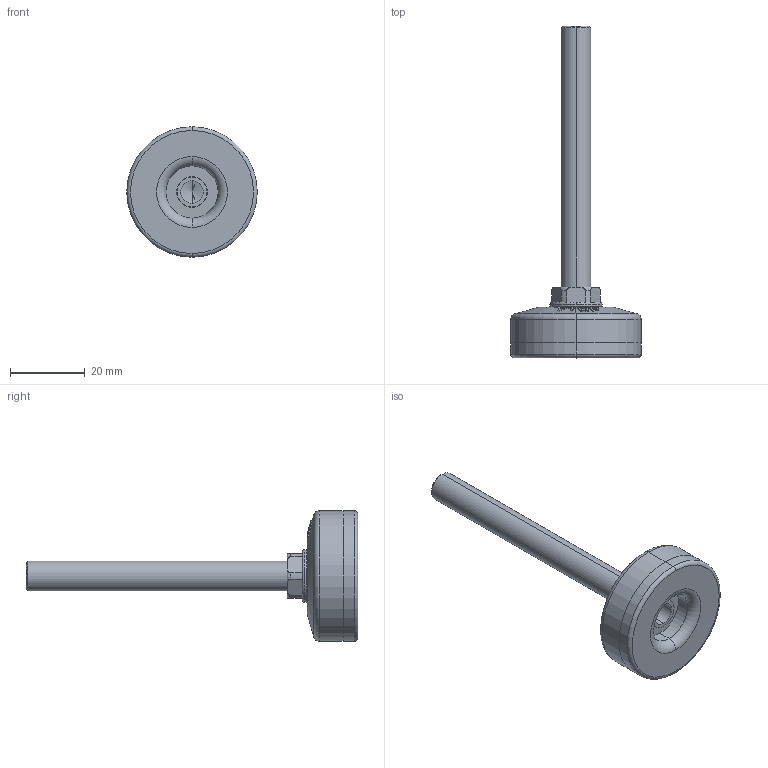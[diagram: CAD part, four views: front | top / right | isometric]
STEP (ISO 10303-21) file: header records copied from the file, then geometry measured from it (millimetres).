
FILE_DESCRIPTION (( 'STEP AP203' ), '1' );
FILE_NAME ('R-35-870-TPU.STEP', '2020-09-11T02:21:06', ( '' ), ( '' ), 'SwSTEP 2.0', 'SolidWorks 2016', '' );
FILE_SCHEMA (( 'CONFIG_CONTROL_DESIGN' ));
Length unit declared in the file: millimetre
Products named in the file (4): 穩諉蹟裝M8炵蹈_M8X70; R-35-870-TPU; S倰覃誹褐_35菁菜; S倰覃誹褐_35裔赽
Assembly tree (3 placements, depth 2):
  R-35-870-TPU
    S倰覃誹褐_35菁菜
    S倰覃誹褐_35裔赽
    穩諉蹟裝M8炵蹈_M8X70
Bounding box: 35 x 89 x 35 mm (x, y, z)
Volume: 11456.1 mm3; surface area: 10144 mm2
Topology: 3 solids, 3 shells, 128 faces, 295 edges, 185 vertices
Faces by surface type: bspline 48, cylinder 32, plane 20, cone 16, torus 12
Entity records: 8345 total; most frequent: CARTESIAN_POINT 5422, ORIENTED_EDGE 586, DIRECTION 399, EDGE_CURVE 293, VERTEX_POINT 185, AXIS2_PLACEMENT_3D 172, B_SPLINE_CURVE_WITH_KNOTS 148, EDGE_LOOP 146
